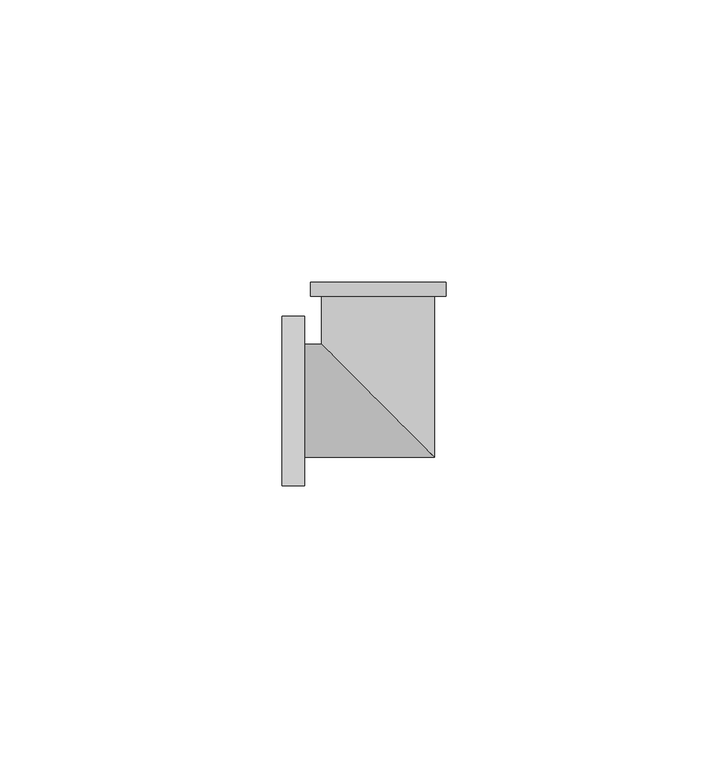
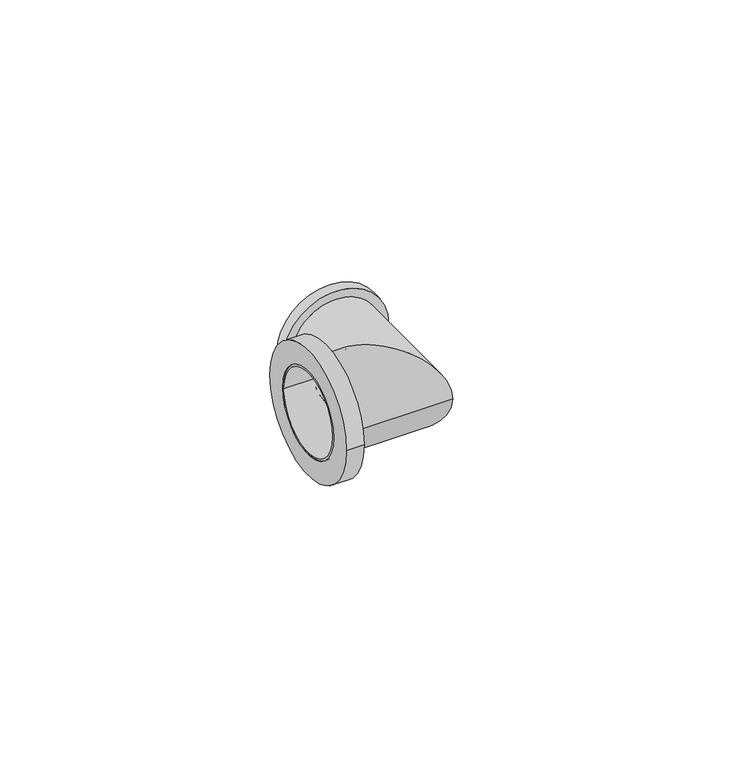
"""IFC4 building model written with IfcOpenShell, lengths in millimetres: pipe fitting geometry, БИР ПЕКС_НПР_Угольник_Резьба_Наружная : Угольник с наружной резьбой."""

from ifc_helpers import new_model, si_unit, point, frame, origin, origin_2d, place, context, project, spatial, polyline, circle_curve, ellipse_curve, trimmed, segment, composite_curve, outline, extrude, source, transform, mapped, element, save
from ifc_brep_helpers import plane_surface, cylinder_surface, revolved_surface, advanced_brep


def pipe_fitting_8c83f6f3(model_context):
    return source(origin(), model_context, "Body", "SolidModel", [
        extrude(outline(composite_curve([segment(trimmed(circle_curve(origin_2d(), 15.0), [point((-15.0, 0.0))], [point((15.0, 0.0))], False, "CARTESIAN"), True, "CONTINUOUS"), segment(trimmed(circle_curve(origin_2d(), 15.0), [point((15.0, 0.0))], [point((-15.0, 0.0))], False, "CARTESIAN"), True, "CONTINUOUS")], self_intersect=False), holes=[composite_curve([segment(trimmed(circle_curve(origin_2d(), 10.0), [point((-10.0, 0.0))], [point((10.0, 0.0))], True, "CARTESIAN"), True, "CONTINUOUS"), segment(trimmed(circle_curve(origin_2d(), 10.0), [point((10.0, 0.0))], [point((-10.0, 0.0))], True, "CARTESIAN"), True, "CONTINUOUS")], self_intersect=False)]), frame((-17.0, 0.0, 0.0), z_axis=(1.0, 0.0, 0.0), x_axis=(0.0, 1.0, 0.0)), (0.0, 0.0, 1.0), 4.0),
        advanced_brep(
        [(-17.0, -10.0, 0.0), (-17.0, 10.0, 0.0), (-17.0, -9.5, 0.0), (-17.0, 9.5, 0.0), (10.0, -10.0, 0.0), (-10.0, 10.0, 0.0), (-12.0, 21.0, 0.0), (12.0, 21.0, 0.0), (9.5, 21.0, 0.0), (-9.5, 21.0, 0.0), (10.0, 18.5, 0.0), (-10.0, 18.5, 0.0), (-12.0, 18.5, 0.0), (12.0, 18.5, 0.0), (9.5, -9.5, 0.0), (-9.5, 9.5, 0.0)],
        [
            (0, 1, circle_curve(frame((-17.0, 0.0, 0.0), z_axis=(-1.0, 0.0, 0.0), x_axis=(0.0, 1.0, 0.0)), 10.0)),
            (1, 0, circle_curve(frame((-17.0, 0.0, 0.0), z_axis=(-1.0, 0.0, 0.0), x_axis=(0.0, 1.0, 0.0)), 10.0)),
            (2, 3, circle_curve(frame((-17.0, 0.0, 0.0), z_axis=(1.0, 0.0, 0.0), x_axis=(0.0, 1.0, 0.0)), 9.5)),
            (3, 2, circle_curve(frame((-17.0, 0.0, 0.0), z_axis=(1.0, 0.0, 0.0), x_axis=(0.0, 1.0, 0.0)), 9.5)),
            (0, 4),
            (4, 5, ellipse_curve(frame((0.0, 0.0, 0.0), z_axis=(-0.7071067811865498, -0.7071067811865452, 0.0), x_axis=(-0.7071067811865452, 0.7071067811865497, 0.0)), 14.1421356, 10.0)),
            (5, 1),
            (5, 4, ellipse_curve(frame((0.0, 0.0, 0.0), z_axis=(-0.7071067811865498, -0.7071067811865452, 0.0), x_axis=(-0.7071067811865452, 0.7071067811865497, 0.0)), 14.1421356, 10.0)),
            (6, 7, circle_curve(frame((0.0, 21.0, 0.0), z_axis=(0.0, 1.0, 0.0), x_axis=(1.0, 0.0, 0.0)), 12.0)),
            (7, 6, circle_curve(frame((0.0, 21.0, 0.0), z_axis=(0.0, 1.0, 0.0), x_axis=(1.0, 0.0, 0.0)), 12.0)),
            (8, 9, circle_curve(frame((0.0, 21.0, 0.0), z_axis=(0.0, -1.0, 0.0), x_axis=(-1.0, 0.0, 0.0)), 9.5)),
            (9, 8, circle_curve(frame((0.0, 21.0, 0.0), z_axis=(0.0, -1.0, 0.0), x_axis=(-1.0, 0.0, 0.0)), 9.5)),
            (4, 10),
            (10, 11, circle_curve(frame((0.0, 18.5, 0.0), z_axis=(0.0, -1.0, 0.0), x_axis=(-1.0, 0.0, 0.0)), 10.0)),
            (11, 5),
            (11, 10, circle_curve(frame((0.0, 18.5, 0.0), z_axis=(0.0, -1.0, 0.0), x_axis=(-1.0, 0.0, 0.0)), 10.0)),
            (12, 13, circle_curve(frame((0.0, 18.5, 0.0), z_axis=(0.0, -1.0, 0.0), x_axis=(1.0, 0.0, 0.0)), 12.0)),
            (13, 12, circle_curve(frame((0.0, 18.5, 0.0), z_axis=(0.0, -1.0, 0.0), x_axis=(1.0, 0.0, 0.0)), 12.0)),
            (12, 6),
            (7, 13),
            (2, 14),
            (14, 15, ellipse_curve(frame((0.0, 0.0, 0.0), z_axis=(0.7071067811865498, 0.7071067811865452, 0.0), x_axis=(0.7071067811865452, -0.7071067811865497, 0.0)), 13.4350288, 9.5)),
            (15, 3),
            (15, 14, ellipse_curve(frame((0.0, 0.0, 0.0), z_axis=(0.7071067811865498, 0.7071067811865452, 0.0), x_axis=(0.7071067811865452, -0.7071067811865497, 0.0)), 13.4350288, 9.5)),
            (9, 15),
            (14, 8),
        ],
        [
            plane_surface(frame((-17.0, 0.0, 0.0), z_axis=(-1.0, 0.0, 0.0), x_axis=(0.0, 0.0, 1.0))),
            cylinder_surface(frame((-17.0, 0.0, 0.0), z_axis=(-1.0, 0.0, 0.0), x_axis=(0.0, 1.0, 0.0)), 10.0),
            plane_surface(frame((0.0, 21.0, 0.0), z_axis=(0.0, 1.0, 0.0), x_axis=(0.0, 0.0, 1.0))),
            cylinder_surface(frame((0.0, 0.0, 0.0), z_axis=(0.0, -1.0, 0.0), x_axis=(-1.0, 0.0, 0.0)), 10.0),
            plane_surface(frame((12.0, 18.5, 0.0), z_axis=(0.0, -1.0, 0.0), x_axis=(0.0, 0.0, 1.0))),
            cylinder_surface(frame((0.0, 21.0, 0.0), z_axis=(0.0, -1.0, 0.0), x_axis=(1.0, 0.0, 0.0)), 12.0),
            revolved_surface(polyline([(9.5, 9.5, 0.0), (-17.0, 9.5, 0.0)]), (-17.0, 0.0, 0.0), (1.0, 0.0, 0.0)),
            revolved_surface(polyline([(-9.5, 21.0, 0.0), (-9.5, -9.5, 0.0)]), (0.0, 0.0, 0.0), (0.0, 1.0, 0.0)),
        ],
        [
            (0, [[1, 2], [3, 4]]),
            (1, [[-1, 5, 6, 7]]),
            (1, [[-2, -7, 8, -5]]),
            (2, [[9, 10], [11, 12]]),
            (3, [[-6, 13, 14, 15]]),
            (3, [[-8, -15, 16, -13]]),
            (4, [[17, 18], [-14, -16]]),
            (5, [[-17, 19, -10, 20]]),
            (5, [[-18, -20, -9, -19]]),
            (6, [[-3, 21, 22, 23]]),
            (6, [[-4, -23, 24, -21]]),
            (7, [[-12, 25, -22, 26]]),
            (7, [[-11, -26, -24, -25]]),
        ],
    ),
    ])


if __name__ == "__main__":
    model = new_model("IFC4")
    model_context = context("Model", 3, world=origin())
    ifc_project = project(units=[si_unit("LENGTHUNIT", "METRE", prefix="MILLI")], contexts=[model_context])
    site = spatial("IfcSite", under=ifc_project)
    building = spatial("IfcBuilding", under=site)
    placement = place(None, origin())
    pipe_fitting_shape = pipe_fitting_8c83f6f3(model_context)
    element("IfcPipeFitting", 1, ObjectType="БИР ПЕКС_НПР_Угольник_Резьба_Наружная : Угольник с наружной резьбой", at=placement, inside=building, context=model_context, shape_type="MappedRepresentation", body=[
        mapped(pipe_fitting_shape, transform((0.0, 0.0, 0.0), x_axis=(1.0, 0.0, 0.0), y_axis=(0.0, 1.0, 0.0), z_axis=(0.0, 0.0, 1.0))),
    ])
    save(model, "model.ifc")
